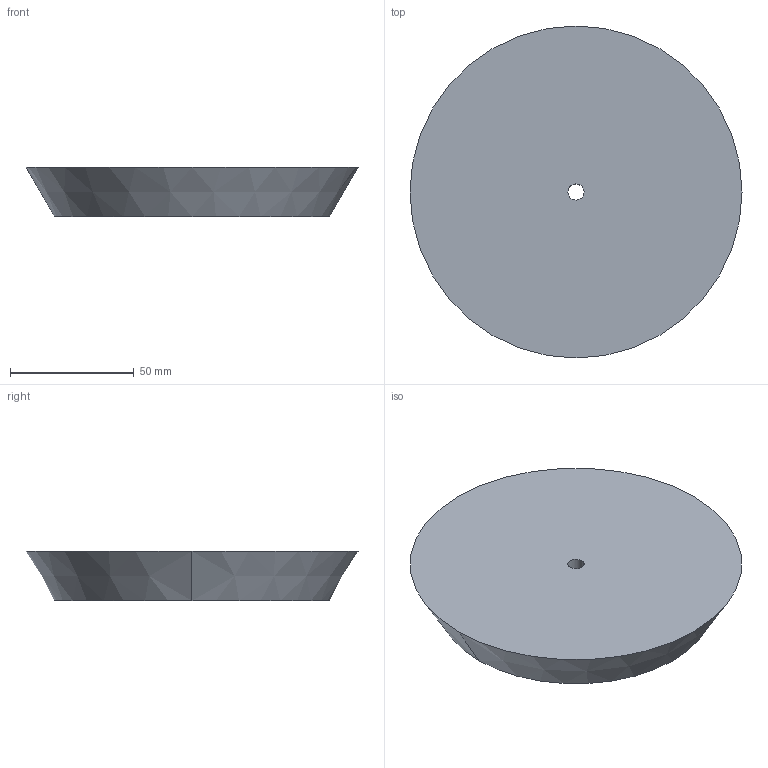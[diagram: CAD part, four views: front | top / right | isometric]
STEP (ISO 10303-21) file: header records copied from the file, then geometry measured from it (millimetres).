
FILE_DESCRIPTION(('CATIA V5 STEP Exchange'),'2;1');
FILE_NAME('C:\Users\andres.garcia\OneDrive - IQS\ASIGNATURAS\DAO\Controles\2223\c0\c1-GOMEZ_Mireia-tapon.stp','2023-02-03T08:22:04+00:00',('none'),('none'),'CATIA Version 5-6 Release 2013 SP6','CATIA V5 STEP AP203','none');
FILE_SCHEMA(('CONFIG_CONTROL_DESIGN'));
Length unit declared in the file: millimetre
Products named in the file (1): c1-GOMEZ_Mireia-tapon
Bounding box: 134 x 134 x 20 mm (x, y, z)
Volume: 235571.2 mm3; surface area: 32989.4 mm2
Topology: 1 solids, 1 shells, 6 faces, 12 edges, 8 vertices
Faces by surface type: cylinder 2, plane 2, cone 2
Entity records: 196 total; most frequent: CARTESIAN_POINT 26, ORIENTED_EDGE 24, DIRECTION 22, AXIS2_PLACEMENT_3D 14, EDGE_CURVE 12, CIRCLE 8, EDGE_LOOP 8, VERTEX_POINT 8
